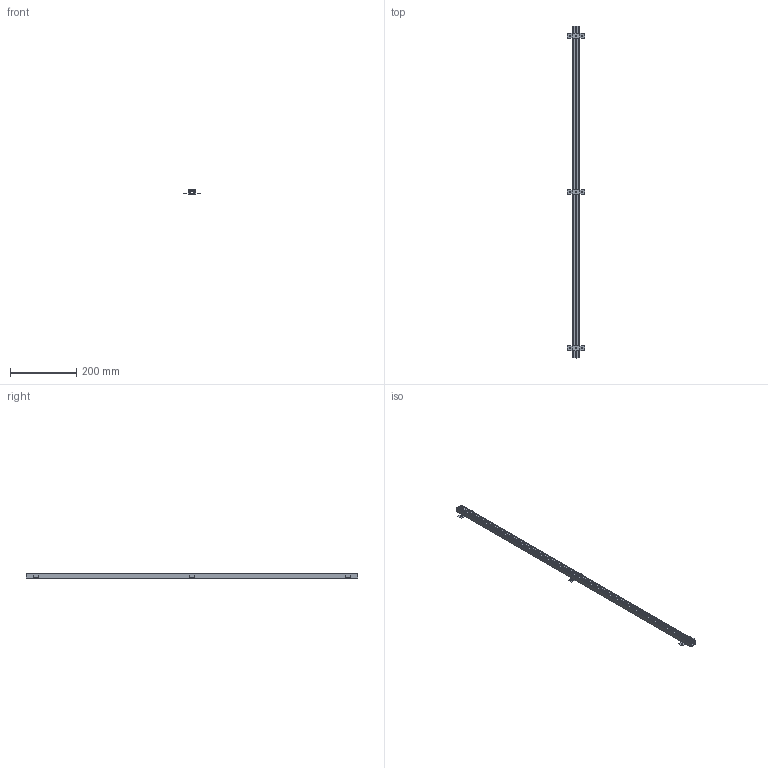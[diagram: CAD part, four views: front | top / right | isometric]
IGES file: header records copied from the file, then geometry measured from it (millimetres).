
Start section: SolidWorks IGES file using analytic representation for surfaces
Global section: file name: L:\Tecnico_PMT\R&D\NEMOstudio\SLACKLINE\SLACKLINE REGULAR (Gen.2)\3D sito\SLACKLINE 1M.IGS; native system: SolidWorks 2016; preprocessor: SolidWorks 2016; author: MariaMancini; date: 220408.090003; units: millimetre
Bounding box: 51.4 x 1000 x 14.67 mm (x, y, z)
Surface area: 171385.8 mm2 (no closed solid volume)
Topology: 0 solids, 0 shells, 165 faces, 1820 edges, 1820 vertices
Faces by surface type: bspline 99, revolution 66
